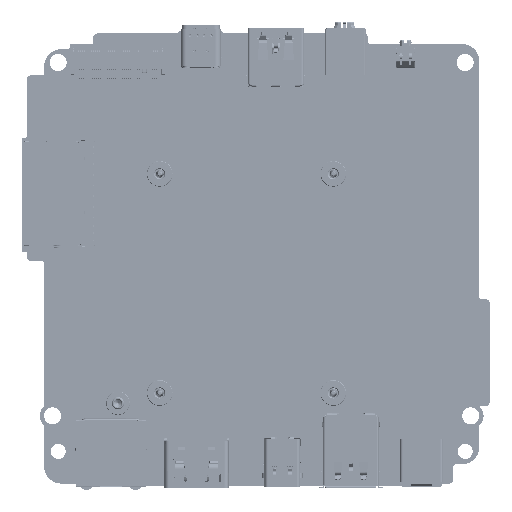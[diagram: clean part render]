
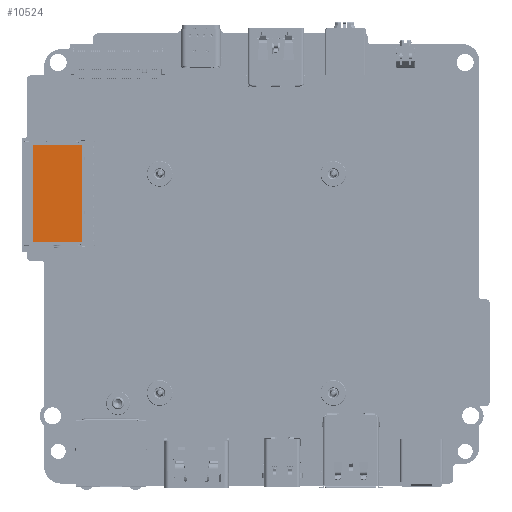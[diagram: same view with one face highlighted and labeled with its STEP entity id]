
A CAD part, front view. The second image highlights one B-rep face of the part: STEP entity #10524.
In plain terms, the highlighted planar face has unit normal (0, -1, 0) as drawn and (0, 0, 1) by its records, which use the part's own axes.
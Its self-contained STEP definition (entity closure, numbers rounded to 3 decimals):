
#8044 = VERTEX_POINT ( 'NONE', #354537 ) ;
#10524 = ADVANCED_FACE ( 'NONE', ( #159206 ), #101600, .T. ) ;
#38813 = CARTESIAN_POINT ( 'NONE',  ( 11.25, 0., 2.81 ) ) ;
#65769 = VERTEX_POINT ( 'NONE', #259259 ) ;
#83312 = ORIENTED_EDGE ( 'NONE', *, *, #191862, .F. ) ;
#95288 = DIRECTION ( 'NONE',  ( 1., 0., 0. ) ) ;
#101600 = PLANE ( 'NONE',  #406256 ) ;
#122079 = CARTESIAN_POINT ( 'NONE',  ( 0., -5.75, 2.81 ) ) ;
#132647 = LINE ( 'NONE', #305762, #288151 ) ;
#155904 = LINE ( 'NONE', #379869, #436769 ) ;
#159206 = FACE_OUTER_BOUND ( 'NONE', #463632, .T. ) ;
#159440 = VECTOR ( 'NONE', #370506, 1000. ) ;
#166926 = VECTOR ( 'NONE', #415342, 1000. ) ;
#191103 = CARTESIAN_POINT ( 'NONE',  ( -11.25, 5.75, 2.81 ) ) ;
#191862 = EDGE_CURVE ( 'NONE', #8044, #381665, #228495, .T. ) ;
#228495 = LINE ( 'NONE', #38813, #159440 ) ;
#241869 = VERTEX_POINT ( 'NONE', #191103 ) ;
#246037 = DIRECTION ( 'NONE',  ( 0., 0., 1. ) ) ;
#259259 = CARTESIAN_POINT ( 'NONE',  ( -11.25, -5.75, 2.81 ) ) ;
#267393 = DIRECTION ( 'NONE',  ( 1., 0., 0. ) ) ;
#271211 = EDGE_CURVE ( 'NONE', #241869, #8044, #132647, .T. ) ;
#282810 = CARTESIAN_POINT ( 'NONE',  ( 0., 0., 2.81 ) ) ;
#288151 = VECTOR ( 'NONE', #267393, 1000. ) ;
#305762 = CARTESIAN_POINT ( 'NONE',  ( 0., 5.75, 2.81 ) ) ;
#322152 = ORIENTED_EDGE ( 'NONE', *, *, #348279, .T. ) ;
#348279 = EDGE_CURVE ( 'NONE', #65769, #381665, #442244, .T. ) ;
#352503 = ORIENTED_EDGE ( 'NONE', *, *, #271211, .F. ) ;
#354537 = CARTESIAN_POINT ( 'NONE',  ( 11.25, 5.75, 2.81 ) ) ;
#356347 = ORIENTED_EDGE ( 'NONE', *, *, #401226, .T. ) ;
#370506 = DIRECTION ( 'NONE',  ( 0., -1., 0. ) ) ;
#379869 = CARTESIAN_POINT ( 'NONE',  ( -11.25, 0., 2.81 ) ) ;
#381665 = VERTEX_POINT ( 'NONE', #468346 ) ;
#384597 = DIRECTION ( 'NONE',  ( 0., -1., 0. ) ) ;
#401226 = EDGE_CURVE ( 'NONE', #241869, #65769, #155904, .T. ) ;
#406256 = AXIS2_PLACEMENT_3D ( 'NONE', #282810, #246037, #95288 ) ;
#415342 = DIRECTION ( 'NONE',  ( 1., 0., 0. ) ) ;
#436769 = VECTOR ( 'NONE', #384597, 1000. ) ;
#442244 = LINE ( 'NONE', #122079, #166926 ) ;
#463632 = EDGE_LOOP ( 'NONE', ( #322152, #83312, #352503, #356347 ) ) ;
#468346 = CARTESIAN_POINT ( 'NONE',  ( 11.25, -5.75, 2.81 ) ) ;
